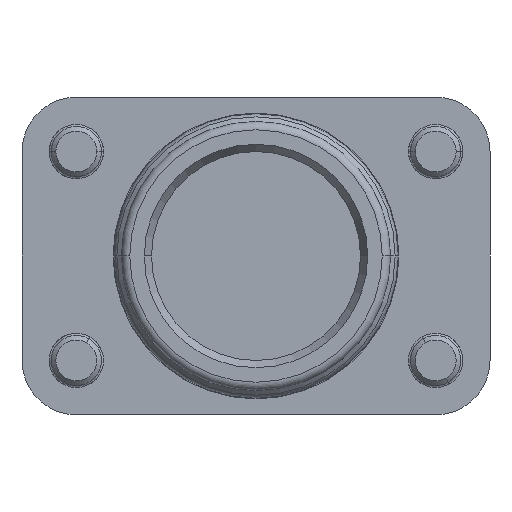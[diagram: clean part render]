
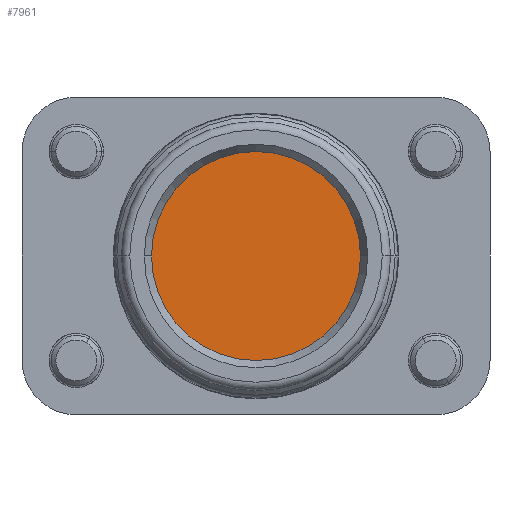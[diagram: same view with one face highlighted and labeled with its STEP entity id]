
A CAD part, front view. The second image highlights one B-rep face of the part: STEP entity #7961.
In plain terms, the highlighted planar face has unit normal (0, -1, 0).
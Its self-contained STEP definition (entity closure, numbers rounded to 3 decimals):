
#483 = VERTEX_POINT ( 'NONE', #9163 ) ;
#846 = DIRECTION ( 'NONE',  ( 0., 0., -1. ) ) ;
#997 = ORIENTED_EDGE ( 'NONE', *, *, #7486, .T. ) ;
#1276 = CARTESIAN_POINT ( 'NONE',  ( 0., 0., -12.5 ) ) ;
#1340 = VERTEX_POINT ( 'NONE', #1276 ) ;
#1575 = DIRECTION ( 'NONE',  ( 0., 0., -1. ) ) ;
#1662 = EDGE_LOOP ( 'NONE', ( #997, #5438 ) ) ;
#1932 = CARTESIAN_POINT ( 'NONE',  ( 0., 0., 0. ) ) ;
#2385 = FACE_OUTER_BOUND ( 'NONE', #1662, .T. ) ;
#4609 = DIRECTION ( 'NONE',  ( 0., 0., -1. ) ) ;
#5438 = ORIENTED_EDGE ( 'NONE', *, *, #6053, .T. ) ;
#5712 = DIRECTION ( 'NONE',  ( 0., -1., 0. ) ) ;
#5770 = CARTESIAN_POINT ( 'NONE',  ( 0., 0., 0. ) ) ;
#6053 = EDGE_CURVE ( 'NONE', #483, #1340, #12086, .T. ) ;
#7486 = EDGE_CURVE ( 'NONE', #1340, #483, #10978, .T. ) ;
#7492 = DIRECTION ( 'NONE',  ( 0., -1., 0. ) ) ;
#7961 = ADVANCED_FACE ( 'NONE', ( #2385 ), #11720, .T. ) ;
#8630 = CARTESIAN_POINT ( 'NONE',  ( 0., 0., 0. ) ) ;
#9163 = CARTESIAN_POINT ( 'NONE',  ( 0., 0., 12.5 ) ) ;
#9447 = AXIS2_PLACEMENT_3D ( 'NONE', #5770, #10642, #4609 ) ;
#9862 = AXIS2_PLACEMENT_3D ( 'NONE', #1932, #5712, #846 ) ;
#10038 = AXIS2_PLACEMENT_3D ( 'NONE', #8630, #7492, #1575 ) ;
#10642 = DIRECTION ( 'NONE',  ( 0., -1., 0. ) ) ;
#10978 = CIRCLE ( 'NONE', #10038, 12.5 ) ;
#11720 = PLANE ( 'NONE',  #9862 ) ;
#12086 = CIRCLE ( 'NONE', #9447, 12.5 ) ;
